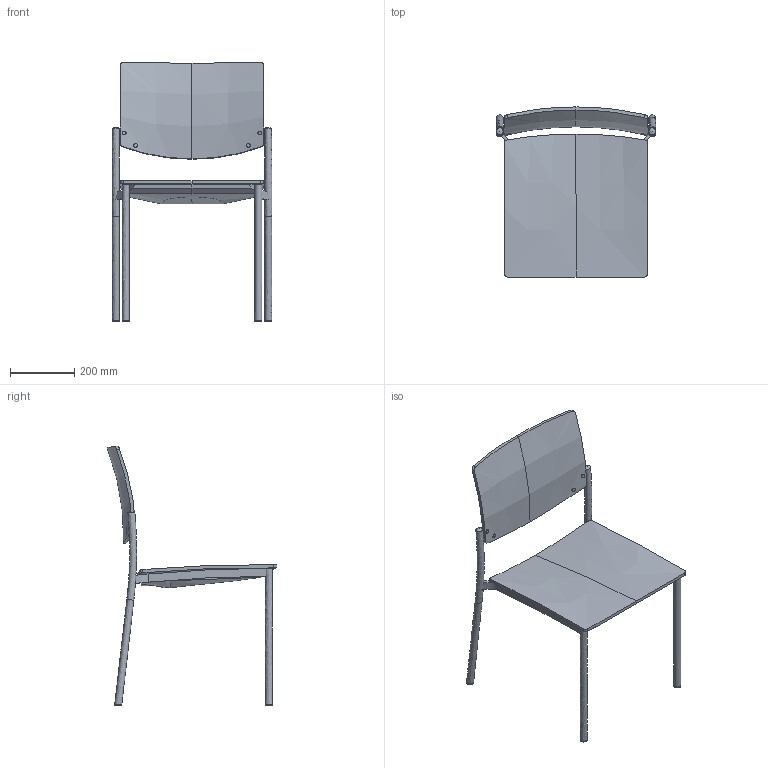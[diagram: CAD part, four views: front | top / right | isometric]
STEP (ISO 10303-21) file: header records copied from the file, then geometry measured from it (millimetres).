
FILE_DESCRIPTION(/* description */ (''),/* implementation_level */ '2;1');
FILE_NAME(/* name */ 'Seance 092',/* time_stamp */ '2020-03-26T10:16:52+01:00',/* author */ (''),/* organization */ (''),/* preprocessor_version */ 'ST-DEVELOPER v16.5',/* originating_system */ '',/* authorisation */ '');
FILE_SCHEMA (('AUTOMOTIVE_DESIGN'));
Length unit declared in the file: millimetre
Products named in the file (1): Document
Bounding box: 496 x 528.45 x 807.99 mm (x, y, z)
Volume: 3484796.7 mm3; surface area: 1099301.4 mm2
Topology: 10 solids, 19 shells, 102 faces, 217 edges, 143 vertices
Faces by surface type: bspline 60, plane 42
Entity records: 4021 total; most frequent: CARTESIAN_POINT 2532, ORIENTED_EDGE 406, EDGE_CURVE 212, B_SPLINE_CURVE_WITH_KNOTS 144, VERTEX_POINT 137, ADVANCED_FACE 102, FACE_OUTER_BOUND 102, EDGE_LOOP 102
